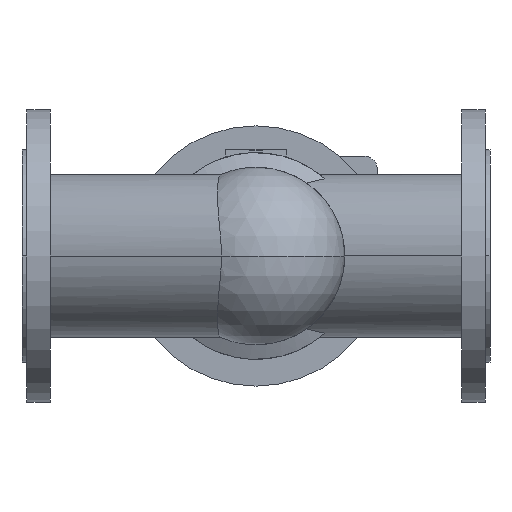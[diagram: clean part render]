
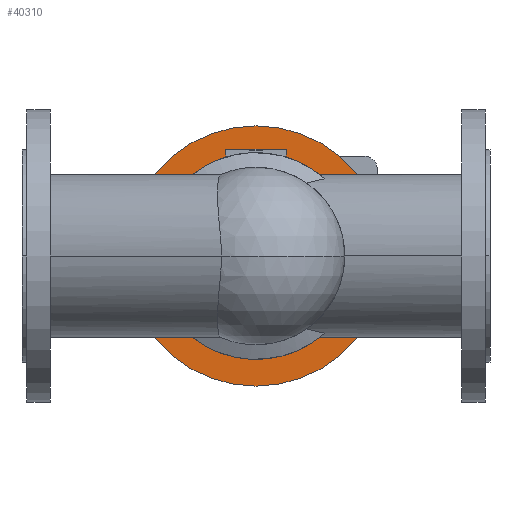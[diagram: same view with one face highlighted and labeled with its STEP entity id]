
A CAD part, front view. The second image highlights one B-rep face of the part: STEP entity #40310.
In plain terms, the highlighted planar face has unit normal (0, -1, 0).
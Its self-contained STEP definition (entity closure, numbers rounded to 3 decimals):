
#1390=CARTESIAN_POINT('',(373.5,143.2,0.));
#1400=VERTEX_POINT('',#1390);
#1580=CARTESIAN_POINT('',(106.5,143.2,0.));
#1590=VERTEX_POINT('',#1580);
#1620=CARTESIAN_POINT('',(240.,143.2,0.));
#1630=DIRECTION('',(0.,-1.,0.));
#1640=DIRECTION('',(-1.,0.,0.));
#1650=AXIS2_PLACEMENT_3D('',#1620,#1630,#1640);
#1660=CIRCLE('',#1650,133.5);
#1670=EDGE_CURVE('',#1590,#1400,#1660,.T.);
#1900=CARTESIAN_POINT('',(134.,143.2,0.));
#1910=VERTEX_POINT('',#1900);
#1940=CARTESIAN_POINT('',(240.,143.2,0.));
#1950=DIRECTION('',(0.,-1.,0.));
#1960=DIRECTION('',(-1.,0.,0.));
#1970=AXIS2_PLACEMENT_3D('',#1940,#1950,#1960);
#1980=CIRCLE('',#1970,106.);
#1990=CARTESIAN_POINT('',(346.,143.2,0.));
#2000=VERTEX_POINT('',#1990);
#2010=EDGE_CURVE('',#2000,#1910,#1980,.T.);
#40160=CARTESIAN_POINT('',(120.25,143.2,0.));
#40170=DIRECTION('',(0.,-1.,0.));
#40180=DIRECTION('',(-1.,0.,0.));
#40190=AXIS2_PLACEMENT_3D('',#40160,#40170,#40180);
#40200=PLANE('',#40190);
#40210=EDGE_CURVE('',#1910,#2000,#1980,.T.);
#40220=ORIENTED_EDGE('',*,*,#40210,.F.);
#40230=ORIENTED_EDGE('',*,*,#2010,.F.);
#40240=EDGE_LOOP('',(#40230,#40220));
#40250=FACE_BOUND('',#40240,.T.);
#40260=EDGE_CURVE('',#1400,#1590,#1660,.T.);
#40270=ORIENTED_EDGE('',*,*,#40260,.T.);
#40280=ORIENTED_EDGE('',*,*,#1670,.T.);
#40290=EDGE_LOOP('',(#40280,#40270));
#40300=FACE_OUTER_BOUND('',#40290,.T.);
#40310=ADVANCED_FACE('',(#40250,#40300),#40200,.T.);
